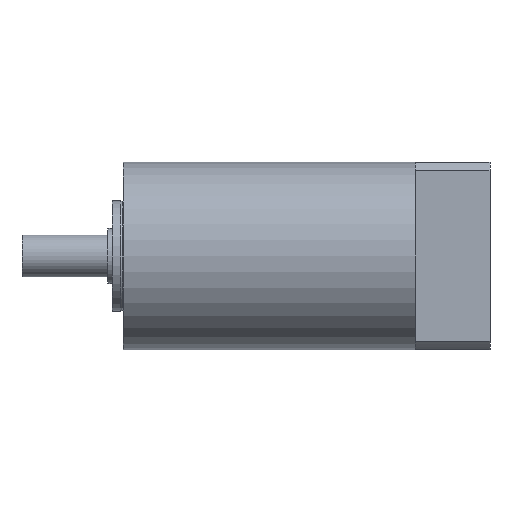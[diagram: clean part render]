
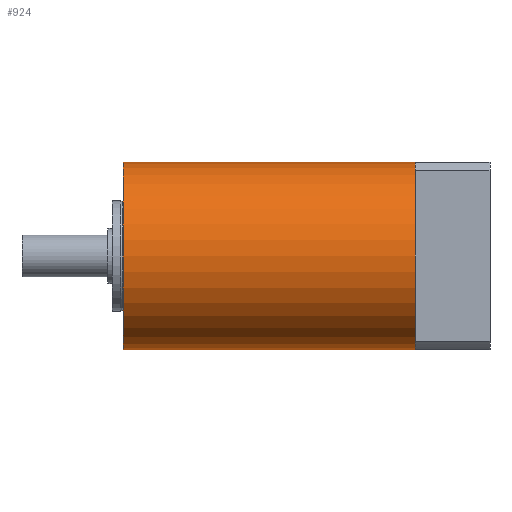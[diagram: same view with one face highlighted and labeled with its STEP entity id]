
A CAD part, front view. The second image highlights one B-rep face of the part: STEP entity #924.
In plain terms, the highlighted cylindrical face has radius 42.5 mm (diameter 85 mm), a partial arc.
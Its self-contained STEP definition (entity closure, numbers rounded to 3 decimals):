
#88 = LINE ( 'NONE', #4200, #2137 ) ;
#259 = DIRECTION ( 'NONE',  ( 1., 0., 0. ) ) ;
#304 = VERTEX_POINT ( 'NONE', #4681 ) ;
#657 = DIRECTION ( 'NONE',  ( 1., 0., 0. ) ) ;
#783 = CARTESIAN_POINT ( 'NONE',  ( -132.5, 0., -42.5 ) ) ;
#924 = ADVANCED_FACE ( 'NONE', ( #4945 ), #5231, .T. ) ;
#926 = CIRCLE ( 'NONE', #2855, 42.5 ) ;
#1188 = AXIS2_PLACEMENT_3D ( 'NONE', #5765, #3514, #2218 ) ;
#1286 = DIRECTION ( 'NONE',  ( -1., 0., 0. ) ) ;
#1304 = ORIENTED_EDGE ( 'NONE', *, *, #4277, .F. ) ;
#1411 = VECTOR ( 'NONE', #259, 1000. ) ;
#2137 = VECTOR ( 'NONE', #5152, 1000. ) ;
#2218 = DIRECTION ( 'NONE',  ( 0., 0., -1. ) ) ;
#2661 = VERTEX_POINT ( 'NONE', #5773 ) ;
#2811 = CIRCLE ( 'NONE', #3147, 42.5 ) ;
#2830 = ORIENTED_EDGE ( 'NONE', *, *, #4924, .T. ) ;
#2855 = AXIS2_PLACEMENT_3D ( 'NONE', #5309, #1286, #5818 ) ;
#2923 = CARTESIAN_POINT ( 'NONE',  ( -132.5, 0., 0. ) ) ;
#2981 = ORIENTED_EDGE ( 'NONE', *, *, #5447, .T. ) ;
#3147 = AXIS2_PLACEMENT_3D ( 'NONE', #2923, #657, #5092 ) ;
#3246 = EDGE_LOOP ( 'NONE', ( #1304, #2981, #3878, #2830 ) ) ;
#3253 = VERTEX_POINT ( 'NONE', #4542 ) ;
#3514 = DIRECTION ( 'NONE',  ( 1., 0., 0. ) ) ;
#3655 = LINE ( 'NONE', #4339, #1411 ) ;
#3878 = ORIENTED_EDGE ( 'NONE', *, *, #4204, .T. ) ;
#4200 = CARTESIAN_POINT ( 'NONE',  ( -132.5, 0., -42.5 ) ) ;
#4204 = EDGE_CURVE ( 'NONE', #5724, #3253, #88, .T. ) ;
#4277 = EDGE_CURVE ( 'NONE', #304, #2661, #3655, .T. ) ;
#4339 = CARTESIAN_POINT ( 'NONE',  ( -132.5, 0., 42.5 ) ) ;
#4542 = CARTESIAN_POINT ( 'NONE',  ( 0., 0., -42.5 ) ) ;
#4681 = CARTESIAN_POINT ( 'NONE',  ( -132.5, 0., 42.5 ) ) ;
#4924 = EDGE_CURVE ( 'NONE', #3253, #2661, #926, .T. ) ;
#4945 = FACE_OUTER_BOUND ( 'NONE', #3246, .T. ) ;
#5092 = DIRECTION ( 'NONE',  ( 0., 0., -1. ) ) ;
#5152 = DIRECTION ( 'NONE',  ( 1., 0., 0. ) ) ;
#5231 = CYLINDRICAL_SURFACE ( 'NONE', #1188, 42.5 ) ;
#5309 = CARTESIAN_POINT ( 'NONE',  ( 0., 0., 0. ) ) ;
#5447 = EDGE_CURVE ( 'NONE', #304, #5724, #2811, .T. ) ;
#5724 = VERTEX_POINT ( 'NONE', #783 ) ;
#5765 = CARTESIAN_POINT ( 'NONE',  ( -132.5, 0., 0. ) ) ;
#5773 = CARTESIAN_POINT ( 'NONE',  ( 0., 0., 42.5 ) ) ;
#5818 = DIRECTION ( 'NONE',  ( 0., 0., -1. ) ) ;
